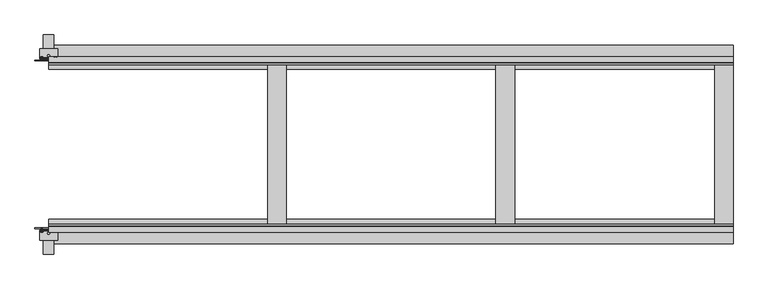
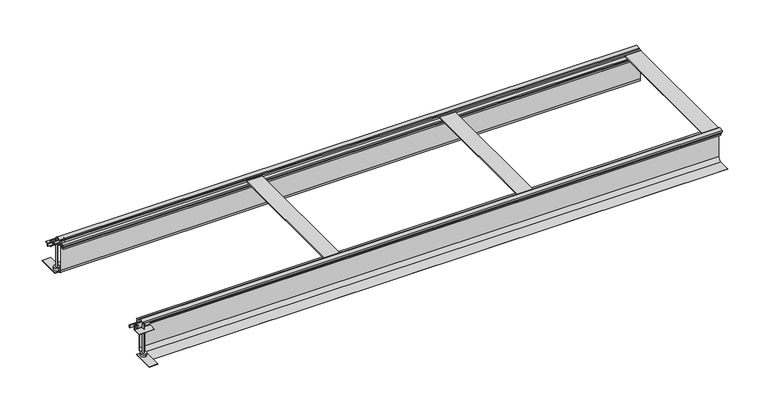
"""IFC4 building model written with IfcOpenShell, lengths in millimetres: proxy geometry."""

import ifcopenshell
import ifcopenshell.guid

model = None  # the IFC model being written
_history = None  # IfcOwnerHistory: only IFC2X3 demands one
_inside = {}  # id of a spatial element -> (the spatial element, [elements in it])
_under = {}  # id of a project, library or spatial element -> (it, [spatial elements below it])
_declared = {}  # id of a project -> (the project, [libraries it declares])
_typed = {}  # id of a type object -> (the type object, [elements of that type])
_made_of = {}  # id of a material, layer set ... -> (it, [elements and type objects made of it])


def new_model(schema):
    """Start an empty IFC model of exactly this schema.

    Asked for "IFC4X3", IfcOpenShell would pick the latest addendum, in which some entities
    have other attributes; the version numbers below select the first issue.
    IFC2X3 requires an IfcOwnerHistory on every rooted entity: one is made here for all.
    """
    global model, _history
    if schema == "IFC4X3":
        model = ifcopenshell.file(schema_version=(4, 3, 0, 0))
    else:
        model = ifcopenshell.file(schema=schema)
    _inside.clear()
    _under.clear()
    _declared.clear()
    _typed.clear()
    _made_of.clear()
    _history = None
    if model.schema == "IFC2X3":
        org = make("IfcOrganization", Name="unknown")
        user = make(
            "IfcPersonAndOrganization",
            ThePerson=make("IfcPerson", FamilyName="unknown"),
            TheOrganization=org,
        )
        app = make(
            "IfcApplication",
            ApplicationDeveloper=org,
            Version="unknown",
            ApplicationFullName="unknown",
            ApplicationIdentifier="unknown",
        )
        _history = make(
            "IfcOwnerHistory",
            OwningUser=user,
            OwningApplication=app,
            ChangeAction="ADDED",
            CreationDate=0,
        )
    return model


def make(cls, **values):
    """One entity of the class cls with the attributes given. An attribute that is None is left unset."""
    return model.create_entity(
        cls, **{name: value for name, value in values.items() if value is not None}
    )


def rooted(cls, **values):
    """An entity with a GlobalId (a new one), such as an element, a storey or a relation."""
    return make(cls, GlobalId=ifcopenshell.guid.new(), OwnerHistory=_history, **values)


def si_unit(unit_type, name, prefix=None):
    """IfcSIUnit, for example si_unit("LENGTHUNIT", "METRE", prefix="MILLI")."""
    return make("IfcSIUnit", UnitType=unit_type, Prefix=prefix, Name=name)


def assignment(units):
    """IfcUnitAssignment: the units of a project."""
    return None if units is None else make("IfcUnitAssignment", Units=units)


def point(xyz):
    """IfcCartesianPoint."""
    return None if xyz is None else make("IfcCartesianPoint", Coordinates=xyz)


def direction(xyz):
    """IfcDirection."""
    return None if xyz is None else make("IfcDirection", DirectionRatios=xyz)


def frame(location, z_axis=None, x_axis=None):
    """IfcAxis2Placement3D, a coordinate frame: its origin and axes. An axis left out is left unset."""
    return make(
        "IfcAxis2Placement3D",
        Location=point(location),
        Axis=direction(z_axis),
        RefDirection=direction(x_axis),
    )


def frame_2d(location, x_axis=None):
    """IfcAxis2Placement2D, a coordinate frame in the plane: its origin and x axis."""
    return make(
        "IfcAxis2Placement2D", Location=point(location), RefDirection=direction(x_axis)
    )


def origin():
    """The frame at (0, 0, 0) with its axes left unset."""
    return frame((0.0, 0.0, 0.0))


def place(relative_to, where):
    """IfcLocalPlacement: puts the frame where relative to a parent placement (None: the world)."""
    return make(
        "IfcLocalPlacement", PlacementRelTo=relative_to, RelativePlacement=where
    )


def context(
    kind, dimensions, precision=None, world=None, true_north=None, identifier=None
):
    """IfcGeometricRepresentationContext, for example the 3D "Model" context."""
    return make(
        "IfcGeometricRepresentationContext",
        ContextIdentifier=identifier,
        ContextType=kind,
        CoordinateSpaceDimension=dimensions,
        Precision=precision,
        WorldCoordinateSystem=world,
        TrueNorth=true_north,
    )


def project(units=None, contexts=None):
    """IfcProject with its units and contexts."""
    return rooted(
        "IfcProject",
        Name="project",
        RepresentationContexts=contexts,
        UnitsInContext=assignment(units),
    )


def spatial(cls, under=None, at=None, **own):
    """A site, building, storey or space (cls), placed at a placement, below another one or the project."""
    s = rooted(cls, ObjectPlacement=at, **own)
    if under is not None:
        _under.setdefault(under.id(), (under, []))[1].append(s)
    return s


def polyline(points):
    """IfcPolyline through the points."""
    return make("IfcPolyline", Points=[point(p) for p in points])


def circle_curve(where, radius):
    """IfcCircle in the frame where."""
    return make("IfcCircle", Position=where, Radius=radius)


def ellipse_curve(where, semi_axis1, semi_axis2):
    """IfcEllipse in the frame where."""
    return make(
        "IfcEllipse", Position=where, SemiAxis1=semi_axis1, SemiAxis2=semi_axis2
    )


def trimmed(basis, trim1, trim2, sense, master):
    """IfcTrimmedCurve: the piece of a basis curve between two trims."""
    return make(
        "IfcTrimmedCurve",
        BasisCurve=basis,
        Trim1=trim1,
        Trim2=trim2,
        SenseAgreement=sense,
        MasterRepresentation=master,
    )


def segment(curve, same_sense, transition):
    """IfcCompositeCurveSegment."""
    return make(
        "IfcCompositeCurveSegment",
        Transition=transition,
        SameSense=same_sense,
        ParentCurve=curve,
    )


def composite_curve(segments, self_intersect=None):
    """IfcCompositeCurve: segments joined end to end."""
    return make("IfcCompositeCurve", Segments=segments, SelfIntersect=self_intersect)


def outline(outer, holes=None, kind="AREA"):
    """IfcArbitraryClosedProfileDef: a profile drawn as a closed curve; with holes, ...WithVoids."""
    if holes is None:
        return make("IfcArbitraryClosedProfileDef", ProfileType=kind, OuterCurve=outer)
    return make(
        "IfcArbitraryProfileDefWithVoids",
        ProfileType=kind,
        OuterCurve=outer,
        InnerCurves=holes,
    )


def extrude(swept, where, along, depth):
    """IfcExtrudedAreaSolid: the profile swept, set in the frame where, extruded along a direction by depth."""
    return make(
        "IfcExtrudedAreaSolid",
        SweptArea=swept,
        Position=where,
        ExtrudedDirection=direction(along),
        Depth=depth,
    )


def shape(context_of_items, identifier, shape_type, items):
    """IfcShapeRepresentation: the items that make up one representation, for example the "Body"."""
    return make(
        "IfcShapeRepresentation",
        ContextOfItems=context_of_items,
        RepresentationIdentifier=identifier,
        RepresentationType=shape_type,
        Items=items,
    )


def source(mapping_origin, context_of_items, identifier, shape_type, items):
    """IfcRepresentationMap: a shape defined once, which mapped items show again and again."""
    return make(
        "IfcRepresentationMap",
        MappingOrigin=mapping_origin,
        MappedRepresentation=shape(context_of_items, identifier, shape_type, items),
    )


def transform(
    local_origin,
    x_axis=None,
    y_axis=None,
    z_axis=None,
    scale=None,
    scale2=None,
    scale3=None,
    uniform=True,
):
    """IfcCartesianTransformationOperator3D, or its non-uniform kind. x_axis, y_axis, z_axis: its Axis1, 2, 3."""
    if uniform:
        return make(
            "IfcCartesianTransformationOperator3D",
            Axis1=direction(x_axis),
            Axis2=direction(y_axis),
            LocalOrigin=point(local_origin),
            Scale=scale,
            Axis3=direction(z_axis),
        )
    return make(
        "IfcCartesianTransformationOperator3DnonUniform",
        Axis1=direction(x_axis),
        Axis2=direction(y_axis),
        LocalOrigin=point(local_origin),
        Scale=scale,
        Axis3=direction(z_axis),
        Scale2=scale2,
        Scale3=scale3,
    )


def mapped(mapping_source, mapping_target):
    """IfcMappedItem: shows the shape of a source again, moved by a transform."""
    return make(
        "IfcMappedItem", MappingSource=mapping_source, MappingTarget=mapping_target
    )


def made_of(thing, what):
    """Note that an element or type object is made of a material, layer set ...; save() writes the relation."""
    if what is not None:
        _made_of.setdefault(what.id(), (what, []))[1].append(thing)
    return thing


def element(
    cls,
    number,
    at=None,
    inside=None,
    cuts=None,
    type_object=None,
    material=None,
    context=None,
    identifier="Body",
    shape_type=None,
    held_by="IfcProductDefinitionShape",
    body=None,
    shapes=None,
    **own,
):
    """One element of the class cls, such as IfcWall. Its Tag is "e" and its number.

    at: its placement. inside: the storey or other place that contains it. cuts: it is an
    opening in that element (IfcRelVoidsElement). A single representation is given by context,
    identifier, shape_type and body (its items); several are given by shapes. held_by: the class
    of the entity that holds the representations. save() writes the other relations.
    """
    e = rooted(cls, Tag="e%d" % number, ObjectPlacement=at, **own)
    if body is not None:
        shapes = [shape(context, identifier, shape_type, body)]
    if shapes is not None:
        e.Representation = make(held_by, Representations=shapes)
    if inside is not None:
        _inside.setdefault(inside.id(), (inside, []))[1].append(e)
    if cuts is not None:
        rooted(
            "IfcRelVoidsElement", RelatingBuildingElement=cuts, RelatedOpeningElement=e
        )
    if type_object is not None:
        _typed.setdefault(type_object.id(), (type_object, []))[1].append(e)
    return made_of(e, material)


def aggregate(whole, parts):
    """IfcRelAggregates: a whole, such as a stair, and the parts it consists of."""
    return rooted("IfcRelAggregates", RelatingObject=whole, RelatedObjects=parts)


def save(model, path):
    """Write the relations noted so far, then the file.

    IfcRelAggregates (storeys below a building ...), IfcRelContainedInSpatialStructure (elements
    in a storey), IfcRelDefinesByType, IfcRelAssociatesMaterial and IfcRelDeclares: one each for
    every whole, place, type object, material and project.
    """
    for whole, parts in _under.values():
        aggregate(whole, parts)
    for where, things in _inside.values():
        rooted(
            "IfcRelContainedInSpatialStructure",
            RelatedElements=things,
            RelatingStructure=where,
        )
    for kind, things in _typed.values():
        rooted("IfcRelDefinesByType", RelatedObjects=things, RelatingType=kind)
    for what, things in _made_of.values():
        rooted("IfcRelAssociatesMaterial", RelatedObjects=things, RelatingMaterial=what)
    for by, libraries in _declared.values():
        rooted("IfcRelDeclares", RelatingContext=by, RelatedDefinitions=libraries)
    model.write(path)


def plane_surface(at):
    """IfcPlane: the flat surface through the origin of the frame at, square to its z axis."""
    return make("IfcPlane", Position=at)


def cylinder_surface(at, radius):
    """IfcCylindricalSurface: all points at the distance radius from the z axis of the frame at."""
    return make("IfcCylindricalSurface", Position=at, Radius=radius)


def revolved_surface(curve, axis_point, axis_direction):
    """IfcSurfaceOfRevolution: the curve turned about the line through axis_point along axis_direction."""
    return make(
        "IfcSurfaceOfRevolution",
        SweptCurve=make("IfcArbitraryOpenProfileDef", ProfileType="CURVE", Curve=curve),
        AxisPosition=make("IfcAxis1Placement", Location=point(axis_point), Axis=direction(axis_direction)),
    )


def advanced_brep(points, edges, surfaces, faces):
    """IfcAdvancedBrep: a solid bounded by faces that lie on surfaces and meet in shared edges.

    An edge is (start, end): straight between two places in points (the first is 0);
    or (start, end, curve); or (start, end, curve, False) where it runs against its curve.
    A face is (place in surfaces, loops), or (place, loops, False) where it looks against
    its surface's normal. A loop lists edges by number (the first is 1), with a minus sign
    where the edge is run from its end to its start. The first loop is the outer one.
    """
    corners = [point(p) for p in points]
    vertices = [make("IfcVertexPoint", VertexGeometry=c) for c in corners]
    made = []
    for start, end, *more in edges:
        made.append(
            make(
                "IfcEdgeCurve",
                EdgeStart=vertices[start],
                EdgeEnd=vertices[end],
                EdgeGeometry=more[0] if more else make("IfcPolyline", Points=[corners[start], corners[end]]),
                SameSense=more[1] if len(more) > 1 else True,
            )
        )
    hull = []
    for where, loops, *sense in faces:
        bounds = []
        for j, loop in enumerate(loops):
            ring = [make("IfcOrientedEdge", EdgeElement=made[abs(k) - 1], Orientation=k > 0) for k in loop]
            bounds.append(
                make(
                    "IfcFaceOuterBound" if j == 0 else "IfcFaceBound",
                    Bound=make("IfcEdgeLoop", EdgeList=ring),
                    Orientation=True,
                )
            )
        hull.append(make("IfcAdvancedFace", Bounds=bounds, FaceSurface=surfaces[where], SameSense=sense[0] if sense else True))
    return make("IfcAdvancedBrep", Outer=make("IfcClosedShell", CfsFaces=hull))


def electrical_fixtures_91705b88(model_context):
    return source(origin(), model_context, "Body", "SolidModel", [
        advanced_brep(
        [(-19.209696, -306.6418922, 3.3), (-28.790304, -306.6418922, 3.3), (-28.790304, -304.7, 3.3), (-19.209696, -304.7, 3.3), (-26.562969, -304.7, 3.3), (-21.437031, -304.7, 3.3), (-26.562969, -292.7, 3.3), (-21.437031, -292.7, 3.3), (-24.0, -292.7, 3.3), (-24.0, -308.3479209, 3.3)],
        [
            (0, 1, circle_curve(frame((-24.0, -306.6418922, 3.3), z_axis=(0.0, 1.0, 0.0), x_axis=(-1.0, 0.0, 0.0)), 4.790304)),
            (1, 2),
            (2, 3, circle_curve(frame((-24.0, -304.7, 3.3), z_axis=(0.0, -1.0, 0.0), x_axis=(-1.0, 0.0, 0.0)), 4.790304)),
            (3, 0),
            (1, 0, circle_curve(frame((-24.0, -306.6418922, 3.3), z_axis=(0.0, 1.0, 0.0), x_axis=(-1.0, 0.0, 0.0)), 4.790304)),
            (3, 2, circle_curve(frame((-24.0, -304.7, 3.3), z_axis=(0.0, -1.0, 0.0), x_axis=(-1.0, 0.0, 0.0)), 4.790304)),
            (2, 4),
            (4, 5, circle_curve(frame((-24.0, -304.7, 3.3), z_axis=(0.0, -1.0, 0.0), x_axis=(-1.0, 0.0, 0.0)), 2.562969)),
            (5, 3),
            (5, 4, circle_curve(frame((-24.0, -304.7, 3.3), z_axis=(0.0, -1.0, 0.0), x_axis=(-1.0, 0.0, 0.0)), 2.562969)),
            (4, 6),
            (6, 7, circle_curve(frame((-24.0, -292.7, 3.3), z_axis=(0.0, -1.0, 0.0), x_axis=(-1.0, 0.0, 0.0)), 2.562969)),
            (7, 5),
            (7, 6, circle_curve(frame((-24.0, -292.7, 3.3), z_axis=(0.0, -1.0, 0.0), x_axis=(-1.0, 0.0, 0.0)), 2.562969)),
            (6, 8),
            (8, 7),
            (9, 1, circle_curve(frame((-24.0319066, -300.8592246, 3.3), z_axis=(0.0, 0.0, -1.0), x_axis=(-1.0, 0.0, 0.0)), 7.4887643)),
            (0, 9, circle_curve(frame((-23.9680934, -300.8592246, 3.3), z_axis=(0.0, 0.0, -1.0), x_axis=(1.0, 0.0, 0.0)), 7.4887643)),
        ],
        [
            cylinder_surface(frame((-24.0, -304.2950786, 3.3), z_axis=(0.0, -1.0, 0.0), x_axis=(-1.0, 0.0, 0.0)), 4.790304),
            plane_surface(frame((-24.0, -304.7, 3.3), z_axis=(0.0, 1.0, 0.0), x_axis=(-1.0, 0.0, 0.0))),
            cylinder_surface(frame((-24.0, -304.2950786, 3.3), z_axis=(0.0, -1.0, 0.0), x_axis=(-1.0, 0.0, 0.0)), 2.562969),
            plane_surface(frame((-24.0, -292.7, 3.3), z_axis=(0.0, 1.0, 0.0), x_axis=(-1.0, 0.0, 0.0))),
            revolved_surface(trimmed(ellipse_curve(frame((-24.0319066, -300.8592246, 3.3), z_axis=(0.0, 0.0, 1.0), x_axis=(-1.0, 0.0, 0.0)), 7.4887643, 7.4887643), [point((-28.790304, -306.6418922, 3.3))], [point((-24.0, -308.3479209, 3.3))], True, "CARTESIAN"), (-24.0, -304.2950786, 3.3), (0.0, -1.0, 0.0)),
        ],
        [
            (0, [[1, 2, 3, 4]]),
            (0, [[5, -4, 6, -2]]),
            (1, [[-3, 7, 8, 9]]),
            (1, [[-6, -9, 10, -7]]),
            (2, [[-8, 11, 12, 13]]),
            (2, [[-10, -13, 14, -11]]),
            (3, [[-12, 15, 16]]),
            (3, [[-14, -16, -15]]),
            (4, [[17, -1, 18]]),
            (4, [[-18, -5, -17]]),
        ],
    ),
        advanced_brep(
        [(29.0575247, 304.7, 3.3), (19.4769168, 304.7, 3.3), (19.4769168, 306.6418922, 3.3), (29.0575247, 306.6418922, 3.3), (26.8301898, 304.7, 3.3), (21.7042517, 304.7, 3.3), (26.8301898, 292.7, 3.3), (21.7042517, 292.7, 3.3), (24.2672208, 292.7, 3.3), (24.2672208, 308.3479209, 3.3)],
        [
            (0, 1, circle_curve(frame((24.2672208, 304.7, 3.3), z_axis=(0.0, 1.0, 0.0), x_axis=(-1.0, 0.0, 0.0)), 4.790304)),
            (1, 2),
            (2, 3, circle_curve(frame((24.2672208, 306.6418922, 3.3), z_axis=(0.0, -1.0, 0.0), x_axis=(-1.0, 0.0, 0.0)), 4.790304)),
            (3, 0),
            (1, 0, circle_curve(frame((24.2672208, 304.7, 3.3), z_axis=(0.0, 1.0, 0.0), x_axis=(-1.0, 0.0, 0.0)), 4.790304)),
            (3, 2, circle_curve(frame((24.2672208, 306.6418922, 3.3), z_axis=(0.0, -1.0, 0.0), x_axis=(-1.0, 0.0, 0.0)), 4.790304)),
            (4, 5, circle_curve(frame((24.2672208, 304.7, 3.3), z_axis=(0.0, 1.0, 0.0), x_axis=(-1.0, 0.0, 0.0)), 2.562969)),
            (5, 1),
            (0, 4),
            (5, 4, circle_curve(frame((24.2672208, 304.7, 3.3), z_axis=(0.0, 1.0, 0.0), x_axis=(-1.0, 0.0, 0.0)), 2.562969)),
            (6, 7, circle_curve(frame((24.2672208, 292.7, 3.3), z_axis=(0.0, 1.0, 0.0), x_axis=(-1.0, 0.0, 0.0)), 2.562969)),
            (7, 5),
            (4, 6),
            (7, 6, circle_curve(frame((24.2672208, 292.7, 3.3), z_axis=(0.0, 1.0, 0.0), x_axis=(-1.0, 0.0, 0.0)), 2.562969)),
            (8, 7),
            (6, 8),
            (2, 9, circle_curve(frame((24.2353142, 300.8592246, 3.3), z_axis=(0.0, 0.0, -1.0), x_axis=(-1.0, 0.0, 0.0)), 7.4887643)),
            (9, 3, circle_curve(frame((24.2991274, 300.8592246, 3.3), z_axis=(0.0, 0.0, -1.0), x_axis=(1.0, 0.0, 0.0)), 7.4887643)),
        ],
        [
            cylinder_surface(frame((24.2672208, 304.2950786, 3.3), z_axis=(0.0, -1.0, 0.0), x_axis=(-1.0, 0.0, 0.0)), 4.790304),
            plane_surface(frame((24.2672208, 304.7, 3.3), z_axis=(0.0, -1.0, 0.0), x_axis=(-1.0, 0.0, 0.0))),
            cylinder_surface(frame((24.2672208, 304.2950786, 3.3), z_axis=(0.0, -1.0, 0.0), x_axis=(-1.0, 0.0, 0.0)), 2.562969),
            plane_surface(frame((24.2672208, 292.7, 3.3), z_axis=(0.0, -1.0, 0.0), x_axis=(-1.0, 0.0, 0.0))),
            revolved_surface(trimmed(ellipse_curve(frame((24.2353142, 300.8592246, 3.3), z_axis=(0.0, 0.0, 1.0), x_axis=(-1.0, 0.0, 0.0)), 7.4887643, 7.4887643), [point((24.2672208, 308.3479209, 3.3))], [point((19.4769168, 306.6418922, 3.3))], True, "CARTESIAN"), (24.2672208, 304.2950786, 3.3), (0.0, -1.0, 0.0)),
        ],
        [
            (0, [[1, 2, 3, 4]]),
            (0, [[5, -4, 6, -2]]),
            (1, [[7, 8, -1, 9]]),
            (1, [[10, -9, -5, -8]]),
            (2, [[11, 12, -7, 13]]),
            (2, [[14, -13, -10, -12]]),
            (3, [[15, -11, 16]]),
            (3, [[-16, -14, -15]]),
            (4, [[-3, 17, 18]]),
            (4, [[-6, -18, -17]]),
        ],
    ),
        advanced_brep(
        [(-19.209696, 304.7, 3.3), (-28.790304, 304.7, 3.3), (-28.790304, 306.6418922, 3.3), (-19.209696, 306.6418922, 3.3), (-21.437031, 304.7, 3.3), (-26.562969, 304.7, 3.3), (-21.437031, 292.7, 3.3), (-26.562969, 292.7, 3.3), (-24.0, 292.7, 3.3), (-24.0, 308.3479209, 3.3)],
        [
            (0, 1, circle_curve(frame((-24.0, 304.7, 3.3), z_axis=(0.0, 1.0, 0.0), x_axis=(-1.0, 0.0, 0.0)), 4.790304)),
            (1, 2),
            (2, 3, circle_curve(frame((-24.0, 306.6418922, 3.3), z_axis=(0.0, -1.0, 0.0), x_axis=(-1.0, 0.0, 0.0)), 4.790304)),
            (3, 0),
            (1, 0, circle_curve(frame((-24.0, 304.7, 3.3), z_axis=(0.0, 1.0, 0.0), x_axis=(-1.0, 0.0, 0.0)), 4.790304)),
            (3, 2, circle_curve(frame((-24.0, 306.6418922, 3.3), z_axis=(0.0, -1.0, 0.0), x_axis=(-1.0, 0.0, 0.0)), 4.790304)),
            (4, 5, circle_curve(frame((-24.0, 304.7, 3.3), z_axis=(0.0, 1.0, 0.0), x_axis=(-1.0, 0.0, 0.0)), 2.562969)),
            (5, 1),
            (0, 4),
            (5, 4, circle_curve(frame((-24.0, 304.7, 3.3), z_axis=(0.0, 1.0, 0.0), x_axis=(-1.0, 0.0, 0.0)), 2.562969)),
            (6, 7, circle_curve(frame((-24.0, 292.7, 3.3), z_axis=(0.0, 1.0, 0.0), x_axis=(-1.0, 0.0, 0.0)), 2.562969)),
            (7, 5),
            (4, 6),
            (7, 6, circle_curve(frame((-24.0, 292.7, 3.3), z_axis=(0.0, 1.0, 0.0), x_axis=(-1.0, 0.0, 0.0)), 2.562969)),
            (8, 7),
            (6, 8),
            (2, 9, circle_curve(frame((-24.0319066, 300.8592246, 3.3), z_axis=(0.0, 0.0, -1.0), x_axis=(-1.0, 0.0, 0.0)), 7.4887643)),
            (9, 3, circle_curve(frame((-23.9680934, 300.8592246, 3.3), z_axis=(0.0, 0.0, -1.0), x_axis=(1.0, 0.0, 0.0)), 7.4887643)),
        ],
        [
            cylinder_surface(frame((-24.0, 304.2950786, 3.3), z_axis=(0.0, -1.0, 0.0), x_axis=(-1.0, 0.0, 0.0)), 4.790304),
            plane_surface(frame((-24.0, 304.7, 3.3), z_axis=(0.0, -1.0, 0.0), x_axis=(-1.0, 0.0, 0.0))),
            cylinder_surface(frame((-24.0, 304.2950786, 3.3), z_axis=(0.0, -1.0, 0.0), x_axis=(-1.0, 0.0, 0.0)), 2.562969),
            plane_surface(frame((-24.0, 292.7, 3.3), z_axis=(0.0, -1.0, 0.0), x_axis=(-1.0, 0.0, 0.0))),
            revolved_surface(trimmed(ellipse_curve(frame((-24.0319066, 300.8592246, 3.3), z_axis=(0.0, 0.0, 1.0), x_axis=(-1.0, 0.0, 0.0)), 7.4887643, 7.4887643), [point((-24.0, 308.3479209, 3.3))], [point((-28.790304, 306.6418922, 3.3))], True, "CARTESIAN"), (-24.0, 304.2950786, 3.3), (0.0, -1.0, 0.0)),
        ],
        [
            (0, [[1, 2, 3, 4]]),
            (0, [[5, -4, 6, -2]]),
            (1, [[7, 8, -1, 9]]),
            (1, [[10, -9, -5, -8]]),
            (2, [[11, 12, -7, 13]]),
            (2, [[14, -13, -10, -12]]),
            (3, [[15, -11, 16]]),
            (3, [[-16, -14, -15]]),
            (4, [[-3, 17, 18]]),
            (4, [[-6, -18, -17]]),
        ],
    ),
        extrude(outline(polyline([(-48.0, 292.7), (-48.0, 295.7), (48.0, 295.7), (48.0, 292.7), (-48.0, 292.7)])), frame((0.0, 0.0, -1.7), z_axis=(0.0, 0.0, 1.0), x_axis=(1.0, 0.0, 0.0)), (0.0, 0.0, 1.0), 10.0),
        extrude(outline(polyline([(-48.0, -295.7), (-48.0, -292.7), (48.0, -292.7), (48.0, -295.7), (-48.0, -295.7)])), frame((0.0, 0.0, -1.7), z_axis=(0.0, 0.0, 1.0), x_axis=(1.0, 0.0, 0.0)), (0.0, 0.0, 1.0), 10.0),
        extrude(outline(composite_curve([segment(polyline([(300.6, 11.7), (302.6, 11.7), (302.6, -10.3088822)]), True, "CONTINUOUS"), segment(trimmed(circle_curve(frame_2d((303.5911178, -10.3088822)), 0.9911178), [point((302.6, -10.3088822))], [point((303.5911178, -11.3))], True, "CARTESIAN"), True, "CONTINUOUS"), segment(polyline([(303.5911178, -11.3), (335.6, -11.3), (335.6, -13.3), (303.6002521, -13.3)]), True, "CONTINUOUS"), segment(trimmed(circle_curve(frame_2d((303.6002521, -10.2997479)), 3.0002521), [point((303.6002521, -13.3))], [point((300.6, -10.2997479))], False, "CARTESIAN"), True, "CONTINUOUS"), segment(polyline([(300.6, -10.2997479), (300.6, 11.7)]), True, "CONTINUOUS")], self_intersect=False)), frame((-31.7, 0.0, 0.0), z_axis=(1.0, 0.0, 0.0), x_axis=(0.0, 1.0, 0.0)), (0.0, 0.0, 1.0), 63.4),
        extrude(outline(composite_curve([segment(polyline([(-300.6, 11.7), (-300.6, -10.2997479)]), True, "CONTINUOUS"), segment(trimmed(circle_curve(frame_2d((-303.6002521, -10.2997479)), 3.0002521), [point((-300.6, -10.2997479))], [point((-303.6002521, -13.3))], False, "CARTESIAN"), True, "CONTINUOUS"), segment(polyline([(-303.6002521, -13.3), (-335.6, -13.3), (-335.6, -11.3), (-303.5911178, -11.3)]), True, "CONTINUOUS"), segment(trimmed(circle_curve(frame_2d((-303.5911178, -10.3088822)), 0.9911178), [point((-303.5911178, -11.3))], [point((-302.6, -10.3088822))], True, "CARTESIAN"), True, "CONTINUOUS"), segment(polyline([(-302.6, -10.3088822), (-302.6, 11.7), (-300.6, 11.7)]), True, "CONTINUOUS")], self_intersect=False)), frame((-31.7, 0.0, 0.0), z_axis=(1.0, 0.0, 0.0), x_axis=(0.0, 1.0, 0.0)), (0.0, 0.0, 1.0), 63.4),
        extrude(outline(composite_curve([segment(trimmed(circle_curve(frame_2d((0.0, 311.1712378)), 3.9923162), [point((0.0, 315.163554))], [point((0.0, 307.1789216))], False, "CARTESIAN"), True, "CONTINUOUS"), segment(trimmed(circle_curve(frame_2d((0.0, 311.1712378)), 3.9923162), [point((0.0, 307.1789216))], [point((0.0, 315.163554))], False, "CARTESIAN"), True, "CONTINUOUS")], self_intersect=False)), frame((0.0, 0.0, -119.0), z_axis=(0.0, 0.0, 1.0), x_axis=(1.0, 0.0, 0.0)), (0.0, 0.0, 1.0), 126.8),
        extrude(outline(composite_curve([segment(trimmed(circle_curve(frame_2d((0.0, -311.0787011)), 3.991847), [point((0.0, -307.0868541))], [point((0.0, -315.0705482))], False, "CARTESIAN"), True, "CONTINUOUS"), segment(trimmed(circle_curve(frame_2d((0.0, -311.0787011)), 3.991847), [point((0.0, -315.0705482))], [point((0.0, -307.0868541))], False, "CARTESIAN"), True, "CONTINUOUS")], self_intersect=False)), frame((0.0, 0.0, -119.0), z_axis=(0.0, 0.0, 1.0), x_axis=(1.0, 0.0, 0.0)), (0.0, 0.0, 1.0), 126.8),
        extrude(outline(composite_curve([segment(trimmed(circle_curve(frame_2d((0.0, 311.1652527)), 12.0), [point((0.0, 323.1652527))], [point((0.0, 299.1652527))], False, "CARTESIAN"), True, "CONTINUOUS"), segment(trimmed(circle_curve(frame_2d((0.0, 311.1652527)), 12.0), [point((0.0, 299.1652527))], [point((0.0, 323.1652527))], False, "CARTESIAN"), True, "CONTINUOUS")], self_intersect=False)), frame((0.0, 0.0, -129.7), z_axis=(0.0, 0.0, 1.0), x_axis=(1.0, 0.0, 0.0)), (0.0, 0.0, 1.0), 10.7),
        extrude(outline(composite_curve([segment(trimmed(circle_curve(frame_2d((0.0, -311.112037)), 12.0), [point((0.0, -299.112037))], [point((0.0, -323.112037))], False, "CARTESIAN"), True, "CONTINUOUS"), segment(trimmed(circle_curve(frame_2d((0.0, -311.112037)), 12.0), [point((0.0, -323.112037))], [point((0.0, -299.112037))], False, "CARTESIAN"), True, "CONTINUOUS")], self_intersect=False)), frame((0.0, 0.0, -129.7), z_axis=(0.0, 0.0, 1.0), x_axis=(1.0, 0.0, 0.0)), (0.0, 0.0, 1.0), 10.7),
        extrude(outline(polyline([(18.0, 294.1), (-18.0, 294.1), (-18.0, 384.1), (18.0, 384.1), (18.0, 294.1)])), frame((0.0, 0.0, -131.2), z_axis=(0.0, 0.0, 1.0), x_axis=(1.0, 0.0, 0.0)), (0.0, 0.0, 1.0), 1.5),
        extrude(outline(polyline([(18.0, -384.1), (-18.0, -384.1), (-18.0, -294.1), (18.0, -294.1), (18.0, -384.1)])), frame((0.0, 0.0, -131.2), z_axis=(0.0, 0.0, 1.0), x_axis=(1.0, 0.0, 0.0)), (0.0, 0.0, 1.0), 1.5),
        extrude(outline(polyline([(2400.0, 280.0), (2400.0, -280.0), (2335.0, -280.0), (2335.0, 280.0), (2400.0, 280.0)])), frame((0.0, 0.0, 2.5), z_axis=(0.0, 0.0, 1.0), x_axis=(1.0, 0.0, 0.0)), (0.0, 0.0, 1.0), 4.2),
        extrude(outline(polyline([(1633.5851476, 279.8), (1633.5851476, -279.8), (1568.585332, -279.8), (1568.585332, 279.8), (1633.5851476, 279.8)])), frame((0.0, 0.0, 2.5), z_axis=(0.0, 0.0, 1.0), x_axis=(1.0, 0.0, 0.0)), (0.0, 0.0, 1.0), 4.2),
        extrude(outline(polyline([(833.5851476, 279.8), (833.5851476, -279.8), (768.585332, -279.8), (768.585332, 279.8), (833.5851476, 279.8)])), frame((0.0, 0.0, 2.5), z_axis=(0.0, 0.0, 1.0), x_axis=(1.0, 0.0, 0.0)), (0.0, 0.0, 1.0), 4.2),
        extrude(outline(polyline([(308.0, 6.7), (290.0, 6.7), (290.0, -2.5), (300.475, -2.5), (300.475, -4.0), (294.6, -4.0), (294.6, -14.0), (293.1, -14.0), (293.1, -4.0), (285.1, -4.0), (285.1, -10.1), (273.3, -10.1), (273.3, -14.0), (263.1, -14.0), (263.1, -6.6607064), (266.0, -6.6607064), (266.0, -12.5), (270.7, -12.5), (270.7, 0.5), (266.0, 0.5), (266.0, -2.1), (262.9910979, -2.1), (262.9910979, 2.5), (279.8, 2.5), (279.8, 10.0), (285.0, 10.0), (285.0, -0.5), (288.0, -0.5), (288.0, 13.0), (308.0, 13.0), (308.0, 6.7)])), frame((0.0, 0.0, 0.0), z_axis=(1.0, 0.0, 0.0), x_axis=(0.0, 1.0, 0.0)), (0.0, 0.0, 1.0), 2400.0),
        extrude(outline(polyline([(-308.0, 6.7), (-308.0, 13.0), (-288.0, 13.0), (-288.0, -0.5), (-285.0, -0.5), (-285.0, 10.0), (-279.8, 10.0), (-279.8, 2.5), (-262.9910979, 2.5), (-262.9910979, -2.1), (-266.0, -2.1), (-266.0, 0.5), (-270.7, 0.5), (-270.7, -12.5), (-266.0, -12.5), (-266.0, -6.6607064), (-263.1, -6.6607064), (-263.1, -14.0), (-273.3, -14.0), (-273.3, -10.1), (-285.1, -10.1), (-285.1, -4.0), (-293.1, -4.0), (-293.1, -14.0), (-294.6, -14.0), (-294.6, -4.0), (-300.475, -4.0), (-300.475, -2.5), (-290.0, -2.5), (-290.0, 6.7), (-308.0, 6.7)])), frame((0.0, 0.0, 0.0), z_axis=(1.0, 0.0, 0.0), x_axis=(0.0, 1.0, 0.0)), (0.0, 0.0, 1.0), 2400.0),
        extrude(outline(composite_curve([segment(polyline([(280.1407967, -1.2), (280.9257245, -1.2), (280.9257245, -116.2)]), True, "CONTINUOUS"), segment(trimmed(circle_curve(frame_2d((295.9257245, -116.2)), 15.0), [point((280.9257245, -116.2))], [point((295.9257245, -131.2))], True, "CARTESIAN"), True, "CONTINUOUS"), segment(polyline([(295.9257245, -131.2), (347.2934005, -131.2), (347.2934005, -131.9992624), (295.1407967, -131.9992624)]), True, "CONTINUOUS"), segment(trimmed(circle_curve(frame_2d((295.1407967, -116.9992624)), 15.0), [point((295.1407967, -131.9992624))], [point((280.1407967, -116.9992624))], False, "CARTESIAN"), True, "CONTINUOUS"), segment(polyline([(280.1407967, -116.9992624), (280.1407967, -1.2)]), True, "CONTINUOUS")], self_intersect=False)), frame((0.0, 0.0, 0.0), z_axis=(1.0, 0.0, 0.0), x_axis=(0.0, 1.0, 0.0)), (0.0, 0.0, 1.0), 2400.0),
        extrude(outline(composite_curve([segment(polyline([(-280.1407967, -1.2), (-280.1407967, -116.9992624)]), True, "CONTINUOUS"), segment(trimmed(circle_curve(frame_2d((-295.1407967, -116.9992624)), 15.0), [point((-280.1407967, -116.9992624))], [point((-295.1407967, -131.9992624))], False, "CARTESIAN"), True, "CONTINUOUS"), segment(polyline([(-295.1407967, -131.9992624), (-347.2934005, -131.9992624), (-347.2934005, -131.2), (-295.9257245, -131.2)]), True, "CONTINUOUS"), segment(trimmed(circle_curve(frame_2d((-295.9257245, -116.2)), 15.0), [point((-295.9257245, -131.2))], [point((-280.9257245, -116.2))], True, "CARTESIAN"), True, "CONTINUOUS"), segment(polyline([(-280.9257245, -116.2), (-280.9257245, -1.2), (-280.1407967, -1.2)]), True, "CONTINUOUS")], self_intersect=False)), frame((0.0, 0.0, 0.0), z_axis=(1.0, 0.0, 0.0), x_axis=(0.0, 1.0, 0.0)), (0.0, 0.0, 1.0), 2400.0),
    ])


if __name__ == "__main__":
    model = new_model("IFC4")
    model_context = context("Model", 3, world=origin())
    ifc_project = project(units=[si_unit("LENGTHUNIT", "METRE", prefix="MILLI")], contexts=[model_context])
    site = spatial("IfcSite", under=ifc_project)
    building = spatial("IfcBuilding", under=site)
    placement = place(None, origin())
    electrical_fixtures_shape = electrical_fixtures_91705b88(model_context)
    element("IfcBuildingElementProxy", 1, Name="Electrical Fixtures", at=placement, inside=building, context=model_context, shape_type="MappedRepresentation", body=[
        mapped(electrical_fixtures_shape, transform((0.0, 0.0, 0.0), x_axis=(1.0, 0.0, 0.0), y_axis=(0.0, 1.0, 0.0), z_axis=(0.0, 0.0, 1.0))),
    ])
    save(model, "model.ifc")
